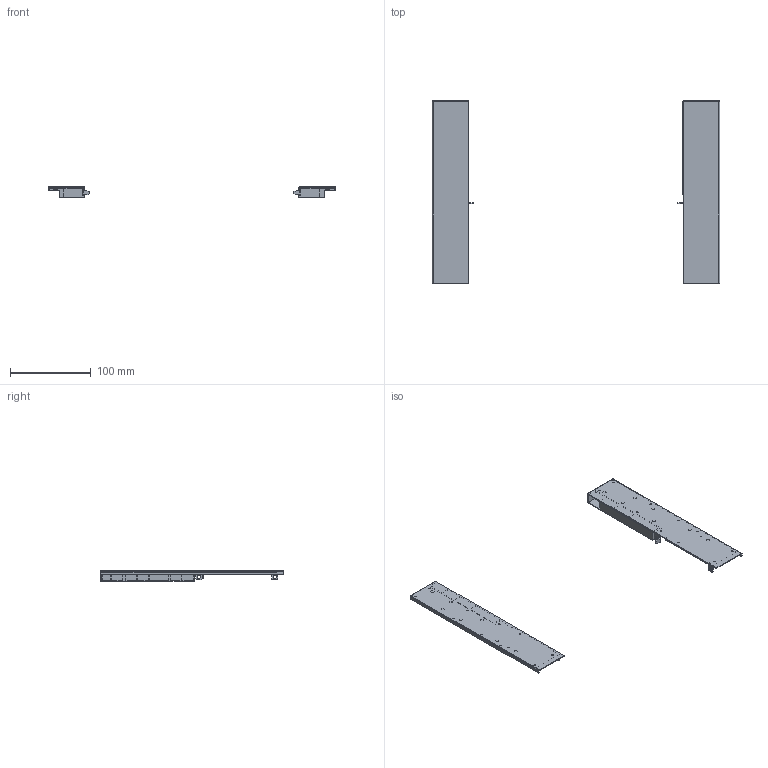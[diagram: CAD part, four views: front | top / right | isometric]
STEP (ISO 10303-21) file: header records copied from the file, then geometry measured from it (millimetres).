
FILE_DESCRIPTION(/* description */ (''),/* implementation_level */ '2;1');
FILE_NAME(/* name */ 'D:\$Workingspace\Designs\Katalog\Cadsoft\GTV Prowadnice\GTV 3D AXISPRO\Model\ZŁĄCZKI\H-199\PB-AXISPRO-WEWMOCD_D1.stp',/* time_stamp */ '2019-09-20T10:42:39+02:00',/* author */ ('tomaszw'),/* organization */ (''),/* preprocessor_version */ 'ST-DEVELOPER v17.2',/* originating_system */ 'Autodesk Inventor 2019',/* authorisation */ '');
FILE_SCHEMA (('AUTOMOTIVE_DESIGN { 1 0 10303 214 3 1 1 }'));
Length unit declared in the file: millimetre
Products named in the file (7): H 199; CBZ-199R-201; CBZ-199R-202; CBZ-199R-301; ¾µÏòCBZ-199R-202; ¾µÏòCBZ-199R-201; ¾µÏòCBZ-199R-301
Assembly tree (6 placements, depth 2):
  H 199
    CBZ-199R-201
    CBZ-199R-202
    CBZ-199R-301
    ¾µÏòCBZ-199R-202
    ¾µÏòCBZ-199R-201
    ¾µÏòCBZ-199R-301
Bounding box: 355.6 x 226 x 13.2 mm (x, y, z)
Volume: 68218.7 mm3; surface area: 113561.4 mm2
Topology: 8 solids, 8 shells, 870 faces, 2328 edges, 1562 vertices
Faces by surface type: plane 470, cylinder 176, bspline 136, torus 54, cone 18, sphere 16
Full cylindrical faces by diameter (mm): 2 x4, 2.5 x14, 3.2 x6, 4 x14, 4.1 x6, 4.2 x4, 6.2 x6
Entity records: 40023 total; most frequent: CARTESIAN_POINT 18353, ORIENTED_EDGE 4624, DIRECTION 4088, EDGE_CURVE 2312, VERTEX_POINT 1562, AXIS2_PLACEMENT_3D 1369, LINE 1350, VECTOR 1350
